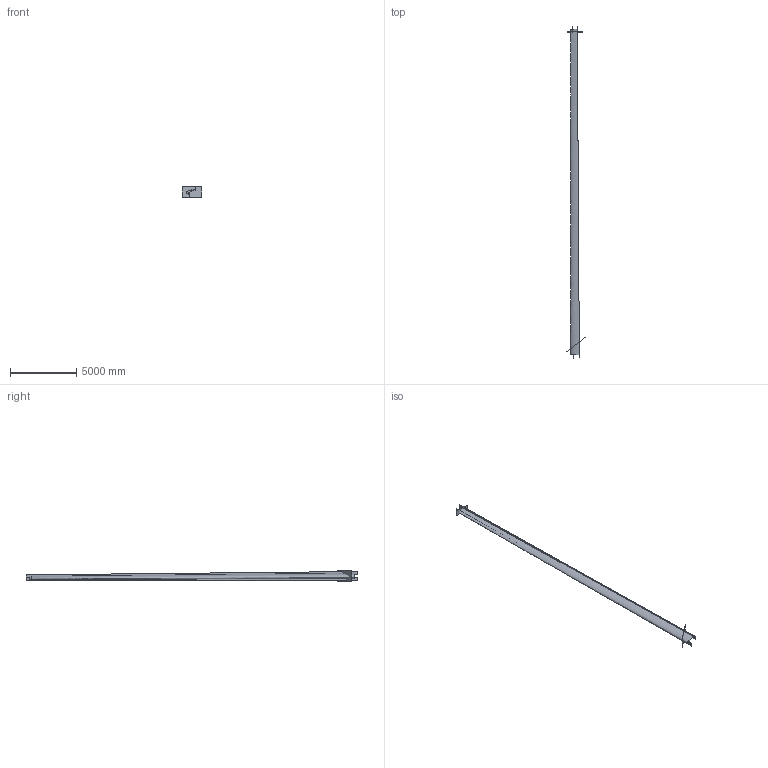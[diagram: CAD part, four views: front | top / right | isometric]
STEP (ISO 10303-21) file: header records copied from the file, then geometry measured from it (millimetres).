
FILE_DESCRIPTION((''),'2;1');
FILE_NAME('','2022-03-10T05:16:54',(''),(''),'','CADfix','');
FILE_SCHEMA(('AUTOMOTIVE_DESIGN { 1 0 10303 214 1 1 1 1 }'));
Length unit declared in the file: inch
Bounding box: 1472.69 x 25059.59 x 811.52 mm (x, y, z)
Surface area: 51704079.1 mm2 (no closed solid volume)
Topology: 0 solids, 0 shells, 6 faces, 24 edges, 24 vertices
Faces by surface type: bspline 6
Entity records: 18683 total; most frequent: CARTESIAN_POINT 18658, B_SPLINE_SURFACE_WITH_KNOTS 6, DIMENSIONAL_EXPONENTS 2, PLANE_ANGLE_MEASURE_WITH_UNIT 1, LENGTH_MEASURE_WITH_UNIT 1, UNCERTAINTY_MEASURE_WITH_UNIT 1, GEOMETRIC_SET 1, GEOMETRICALLY_BOUNDED_SURFACE_SHAPE_REPRESENTATION 1
